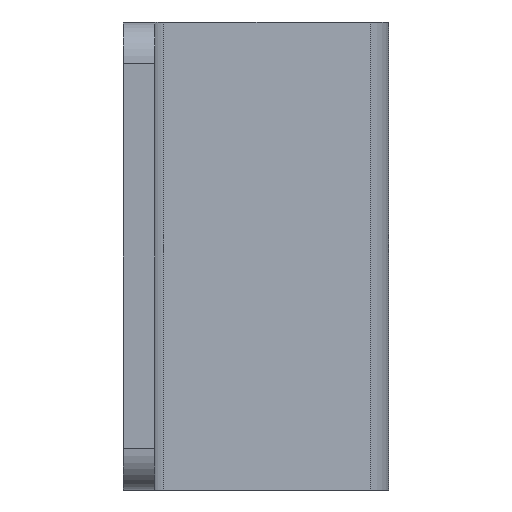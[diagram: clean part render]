
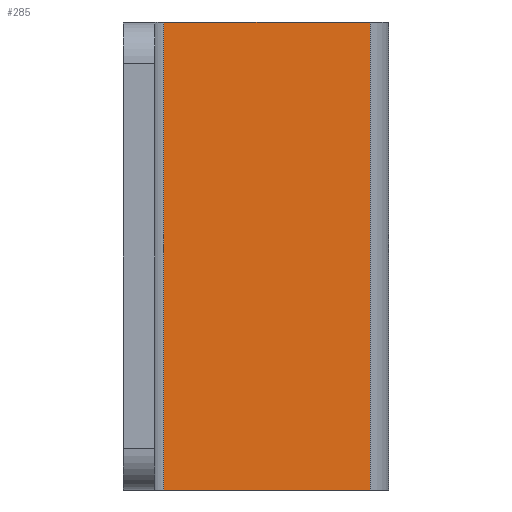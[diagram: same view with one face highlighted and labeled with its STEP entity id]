
A CAD part, front view. The second image highlights one B-rep face of the part: STEP entity #285.
In plain terms, the highlighted planar face has unit normal (0.707, -0.707, 0).
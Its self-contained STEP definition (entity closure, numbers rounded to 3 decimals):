
#20 = ORIENTED_EDGE ( 'NONE', *, *, #1358, .T. ) ;
#74 = VERTEX_POINT ( 'NONE', #454 ) ;
#92 = VERTEX_POINT ( 'NONE', #420 ) ;
#104 = VERTEX_POINT ( 'NONE', #318 ) ;
#182 = VERTEX_POINT ( 'NONE', #374 ) ;
#222 = ORIENTED_EDGE ( 'NONE', *, *, #1297, .T. ) ;
#234 = ORIENTED_EDGE ( 'NONE', *, *, #1268, .F. ) ;
#238 = ORIENTED_EDGE ( 'NONE', *, *, #1362, .F. ) ;
#285 = ADVANCED_FACE ( 'NONE', ( #789 ), #406, .F. ) ;
#318 = CARTESIAN_POINT ( 'NONE',  ( 23.743, 19.5, 45. ) ) ;
#374 = CARTESIAN_POINT ( 'NONE',  ( 3.879, -0.364, 45. ) ) ;
#391 = DIRECTION ( 'NONE',  ( -0.707, -0.707, 0. ) ) ;
#392 = DIRECTION ( 'NONE',  ( -0.707, 0.707, 0. ) ) ;
#406 = PLANE ( 'NONE',  #1346 ) ;
#420 = CARTESIAN_POINT ( 'NONE',  ( 3.879, -0.364, 0. ) ) ;
#434 = CARTESIAN_POINT ( 'NONE',  ( 2.121, -2.121, 45. ) ) ;
#454 = CARTESIAN_POINT ( 'NONE',  ( 23.743, 19.5, 0. ) ) ;
#567 = VECTOR ( 'NONE', #1207, 1000. ) ;
#570 = LINE ( 'NONE', #1208, #567 ) ;
#574 = VECTOR ( 'NONE', #1125, 1000. ) ;
#576 = LINE ( 'NONE', #1131, #574 ) ;
#660 = VECTOR ( 'NONE', #974, 1000. ) ;
#665 = LINE ( 'NONE', #963, #660 ) ;
#670 = EDGE_LOOP ( 'NONE', ( #222, #238, #234, #20 ) ) ;
#715 = VECTOR ( 'NONE', #1028, 1000. ) ;
#719 = LINE ( 'NONE', #1033, #715 ) ;
#789 = FACE_OUTER_BOUND ( 'NONE', #670, .T. ) ;
#963 = CARTESIAN_POINT ( 'NONE',  ( 2.121, -2.121, 0. ) ) ;
#974 = DIRECTION ( 'NONE',  ( 0.707, 0.707, 0. ) ) ;
#1028 = DIRECTION ( 'NONE',  ( 0.707, 0.707, 0. ) ) ;
#1033 = CARTESIAN_POINT ( 'NONE',  ( 2.121, -2.121, 45. ) ) ;
#1125 = DIRECTION ( 'NONE',  ( 0., 0., -1. ) ) ;
#1131 = CARTESIAN_POINT ( 'NONE',  ( 3.879, -0.364, 45. ) ) ;
#1207 = DIRECTION ( 'NONE',  ( 0., 0., -1. ) ) ;
#1208 = CARTESIAN_POINT ( 'NONE',  ( 23.743, 19.5, 45. ) ) ;
#1268 = EDGE_CURVE ( 'NONE', #182, #104, #719, .T. ) ;
#1297 = EDGE_CURVE ( 'NONE', #92, #74, #665, .T. ) ;
#1346 = AXIS2_PLACEMENT_3D ( 'NONE', #434, #392, #391 ) ;
#1358 = EDGE_CURVE ( 'NONE', #182, #92, #576, .T. ) ;
#1362 = EDGE_CURVE ( 'NONE', #104, #74, #570, .T. ) ;
